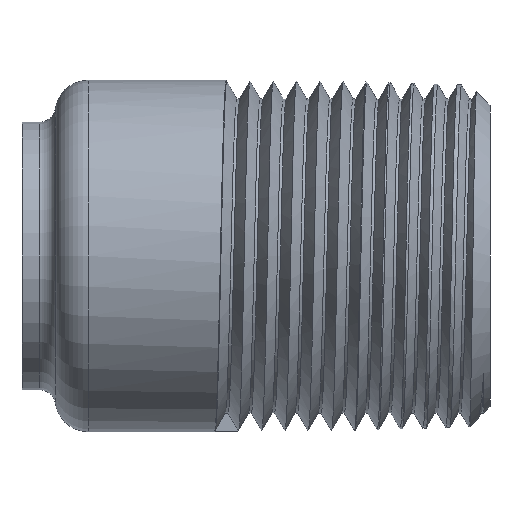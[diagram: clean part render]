
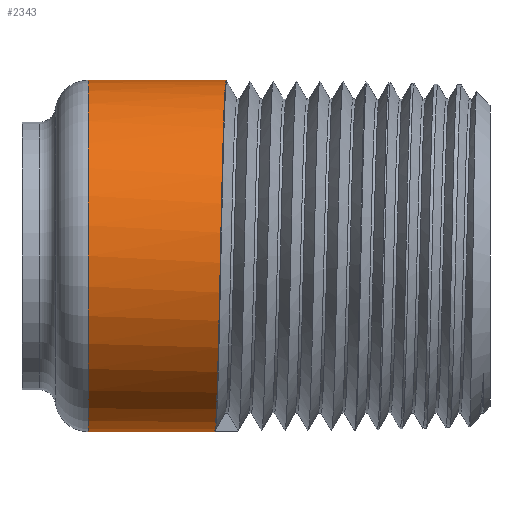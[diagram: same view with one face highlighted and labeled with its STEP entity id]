
A CAD part, front view. The second image highlights one B-rep face of the part: STEP entity #2343.
In plain terms, the highlighted cylindrical face has radius 16.701 mm (diameter 33.401 mm), a partial arc.
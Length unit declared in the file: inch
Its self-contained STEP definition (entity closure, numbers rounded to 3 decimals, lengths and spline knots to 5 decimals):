
#56 = LINE ( 'NONE', #1045, #707 ) ;
#67 = ORIENTED_EDGE ( 'NONE', *, *, #2536, .F. ) ;
#204 = CARTESIAN_POINT ( 'NONE',  ( 0.74186, -0.69134, 0. ) ) ;
#327 = CARTESIAN_POINT ( 'NONE',  ( 0.24843, 0., 0.6575 ) ) ;
#436 = CIRCLE ( 'NONE', #2927, 0.6575 ) ;
#536 = ORIENTED_EDGE ( 'NONE', *, *, #1663, .T. ) ;
#539 = CARTESIAN_POINT ( 'NONE',  ( 0.75491, -0.38647, 0.53193 ) ) ;
#617 = DIRECTION ( 'NONE',  ( -1., 0., 0. ) ) ;
#707 = VECTOR ( 'NONE', #709, 39.37008 ) ;
#709 = DIRECTION ( 'NONE',  ( -1., 0., 0. ) ) ;
#748 = CARTESIAN_POINT ( 'NONE',  ( 0.24843, 0., -0.6575 ) ) ;
#837 = CARTESIAN_POINT ( 'NONE',  ( 0.76361, 0., 0.6575 ) ) ;
#877 = CARTESIAN_POINT ( 'NONE',  ( 0.72011, 0., -0.6575 ) ) ;
#951 = CYLINDRICAL_SURFACE ( 'NONE', #1473, 0.6575 ) ;
#982 = ORIENTED_EDGE ( 'NONE', *, *, #3487, .T. ) ;
#1045 = CARTESIAN_POINT ( 'NONE',  ( 0., 0., 0.6575 ) ) ;
#1151 = CARTESIAN_POINT ( 'NONE',  ( 0.76361, 0., 0.6575 ) ) ;
#1270 = VERTEX_POINT ( 'NONE', #1431 ) ;
#1423 = DIRECTION ( 'NONE',  ( 0., 0., 1. ) ) ;
#1430 = ORIENTED_EDGE ( 'NONE', *, *, #3852, .F. ) ;
#1431 = CARTESIAN_POINT ( 'NONE',  ( 0.72011, 0., -0.6575 ) ) ;
#1473 = AXIS2_PLACEMENT_3D ( 'NONE', #3717, #617, #1979 ) ;
#1663 = EDGE_CURVE ( 'NONE', #2387, #4180, #56, .T. ) ;
#1755 = DIRECTION ( 'NONE',  ( -1., 0., 0. ) ) ;
#1766 = EDGE_LOOP ( 'NONE', ( #1430, #982, #536, #67 ) ) ;
#1807 = DIRECTION ( 'NONE',  ( -1., 0., 0. ) ) ;
#1926 = VECTOR ( 'NONE', #1807, 39.37008 ) ;
#1979 = DIRECTION ( 'NONE',  ( 0., 0., 1. ) ) ;
#2024 = CARTESIAN_POINT ( 'NONE',  ( 0.76361, 0., 0.6575 ) ) ;
#2057 =( BOUNDED_CURVE ( )  B_SPLINE_CURVE ( 2, ( #877, #2237, #3915, #3873, #2508, #204, #2199, #3593, #539, #3201, #4191, #837, #1151 ),
 .UNSPECIFIED., .F., .F. ) 
 B_SPLINE_CURVE_WITH_KNOTS ( ( 3, 2, 2, 2, 2, 2, 3 ),
 ( 0., 0.1, 0.2, 0.3, 0.4, 0.5, 0.5 ),
 .UNSPECIFIED. ) 
 CURVE ( )  GEOMETRIC_REPRESENTATION_ITEM ( )  RATIONAL_B_SPLINE_CURVE ( ( 1., 0.951, 1., 0.951, 1., 0.951, 1., 0.951, 1., 0.951, 1., 1., 1. ) ) 
 REPRESENTATION_ITEM ( '' )  );
#2161 = CARTESIAN_POINT ( 'NONE',  ( 0.24843, 0., 0. ) ) ;
#2199 = CARTESIAN_POINT ( 'NONE',  ( 0.74621, -0.62532, 0.20318 ) ) ;
#2237 = CARTESIAN_POINT ( 'NONE',  ( 0.72446, -0.21363, -0.6575 ) ) ;
#2343 = ADVANCED_FACE ( 'NONE', ( #4016 ), #951, .T. ) ;
#2387 = VERTEX_POINT ( 'NONE', #2024 ) ;
#2508 = CARTESIAN_POINT ( 'NONE',  ( 0.73751, -0.62532, -0.20318 ) ) ;
#2536 = EDGE_CURVE ( 'NONE', #3174, #4180, #436, .T. ) ;
#2927 = AXIS2_PLACEMENT_3D ( 'NONE', #2161, #1755, #1423 ) ;
#3174 = VERTEX_POINT ( 'NONE', #748 ) ;
#3201 = CARTESIAN_POINT ( 'NONE',  ( 0.75926, -0.21364, 0.6575 ) ) ;
#3487 = EDGE_CURVE ( 'NONE', #1270, #2387, #2057, .T. ) ;
#3499 = LINE ( 'NONE', #4131, #1926 ) ;
#3593 = CARTESIAN_POINT ( 'NONE',  ( 0.75056, -0.5593, 0.40636 ) ) ;
#3717 = CARTESIAN_POINT ( 'NONE',  ( 0., 0., 0. ) ) ;
#3852 = EDGE_CURVE ( 'NONE', #1270, #3174, #3499, .T. ) ;
#3873 = CARTESIAN_POINT ( 'NONE',  ( 0.73316, -0.5593, -0.40636 ) ) ;
#3915 = CARTESIAN_POINT ( 'NONE',  ( 0.72881, -0.38647, -0.53193 ) ) ;
#4016 = FACE_OUTER_BOUND ( 'NONE', #1766, .T. ) ;
#4131 = CARTESIAN_POINT ( 'NONE',  ( 0., 0., -0.6575 ) ) ;
#4180 = VERTEX_POINT ( 'NONE', #327 ) ;
#4191 = CARTESIAN_POINT ( 'NONE',  ( 0.76361, 0., 0.6575 ) ) ;
